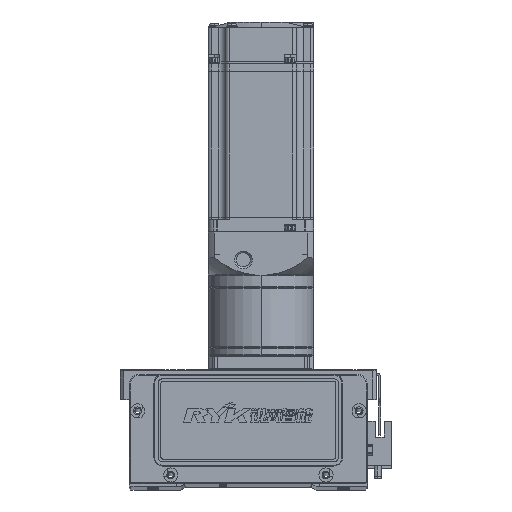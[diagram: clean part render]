
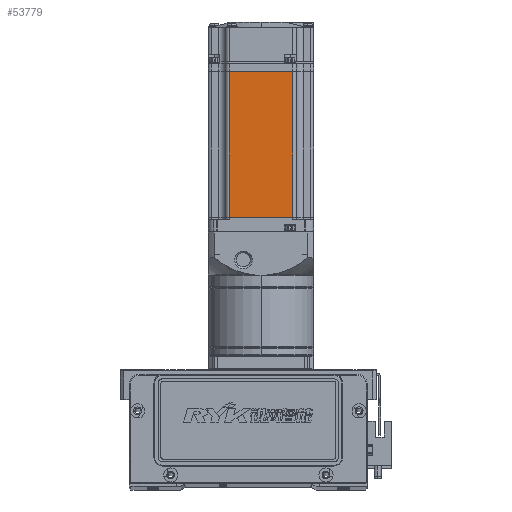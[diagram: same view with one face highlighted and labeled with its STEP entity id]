
A CAD part, top view. The second image highlights one B-rep face of the part: STEP entity #53779.
In plain terms, the highlighted planar face has unit normal (0, 0, 1).
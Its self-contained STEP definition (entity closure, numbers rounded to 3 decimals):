
#2050 = EDGE_CURVE ( 'NONE', #31257, #52000, #50305, .T. ) ;
#2132 = DIRECTION ( 'NONE',  ( 0., -1., 0. ) ) ;
#4849 = VECTOR ( 'NONE', #67684, 1000. ) ;
#5745 = EDGE_CURVE ( 'NONE', #22894, #52000, #67267, .T. ) ;
#6189 = CARTESIAN_POINT ( 'NONE',  ( -6.5, 18., 30. ) ) ;
#6659 = CARTESIAN_POINT ( 'NONE',  ( -6.5, -18., 30. ) ) ;
#10619 = CARTESIAN_POINT ( 'NONE',  ( -6.5, -25., 30. ) ) ;
#10855 = PLANE ( 'NONE',  #21379 ) ;
#11765 = DIRECTION ( 'NONE',  ( -1., 0., 0. ) ) ;
#13388 = CARTESIAN_POINT ( 'NONE',  ( -7.75, 0., 30. ) ) ;
#17016 = ORIENTED_EDGE ( 'NONE', *, *, #43174, .T. ) ;
#19404 = VECTOR ( 'NONE', #2132, 1000. ) ;
#21162 = LINE ( 'NONE', #13388, #19404 ) ;
#21379 = AXIS2_PLACEMENT_3D ( 'NONE', #10619, #37995, #43624 ) ;
#22894 = VERTEX_POINT ( 'NONE', #60618 ) ;
#23503 = ORIENTED_EDGE ( 'NONE', *, *, #5745, .F. ) ;
#26604 = FACE_OUTER_BOUND ( 'NONE', #28044, .T. ) ;
#28044 = EDGE_LOOP ( 'NONE', ( #67355, #17016, #43839, #23503 ) ) ;
#30382 = CARTESIAN_POINT ( 'NONE',  ( -7.75, 18., 30. ) ) ;
#31257 = VERTEX_POINT ( 'NONE', #63600 ) ;
#34667 = CARTESIAN_POINT ( 'NONE',  ( -90.45, -18., 30. ) ) ;
#37680 = VECTOR ( 'NONE', #45771, 1000. ) ;
#37995 = DIRECTION ( 'NONE',  ( 0., 0., 1. ) ) ;
#39409 = CARTESIAN_POINT ( 'NONE',  ( -90.45, 0., 30. ) ) ;
#43174 = EDGE_CURVE ( 'NONE', #58116, #31257, #45586, .T. ) ;
#43624 = DIRECTION ( 'NONE',  ( 1., 0., 0. ) ) ;
#43839 = ORIENTED_EDGE ( 'NONE', *, *, #2050, .T. ) ;
#45586 = LINE ( 'NONE', #6189, #37680 ) ;
#45771 = DIRECTION ( 'NONE',  ( -1., 0., 0. ) ) ;
#50305 = LINE ( 'NONE', #39409, #4849 ) ;
#51740 = EDGE_CURVE ( 'NONE', #58116, #22894, #21162, .T. ) ;
#52000 = VERTEX_POINT ( 'NONE', #34667 ) ;
#53779 = ADVANCED_FACE ( 'NONE', ( #26604 ), #10855, .T. ) ;
#58116 = VERTEX_POINT ( 'NONE', #30382 ) ;
#60618 = CARTESIAN_POINT ( 'NONE',  ( -7.75, -18., 30. ) ) ;
#63600 = CARTESIAN_POINT ( 'NONE',  ( -90.45, 18., 30. ) ) ;
#66419 = VECTOR ( 'NONE', #11765, 1000. ) ;
#67267 = LINE ( 'NONE', #6659, #66419 ) ;
#67355 = ORIENTED_EDGE ( 'NONE', *, *, #51740, .F. ) ;
#67684 = DIRECTION ( 'NONE',  ( 0., -1., 0. ) ) ;
